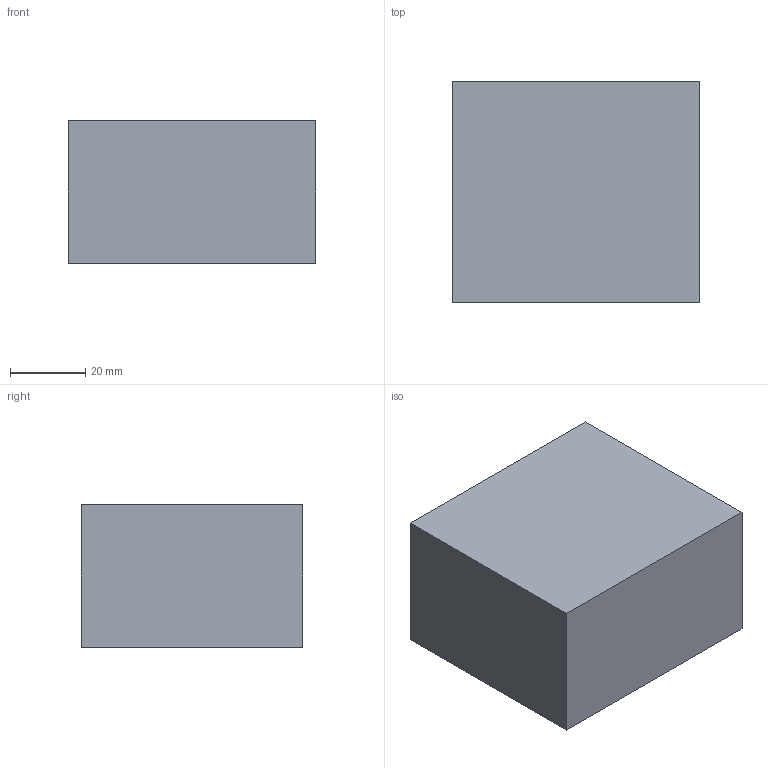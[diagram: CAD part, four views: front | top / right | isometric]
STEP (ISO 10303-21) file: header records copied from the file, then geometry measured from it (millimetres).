
FILE_DESCRIPTION (( 'STEP AP203' ), '1' );
FILE_NAME ('FTNES12.STEP', '2026-06-26T01:18:28', ( 'USER' ), ( '' ), 'SwSTEP 2.0', 'SolidWorks 2023', '' );
FILE_SCHEMA (( 'CONFIG_CONTROL_DESIGN' ));
Length unit declared in the file: millimetre
Products named in the file (1): FTNES12
Bounding box: 66 x 59 x 38 mm (x, y, z)
Volume: 117639.4 mm3; surface area: 22250.7 mm2
Topology: 1 solids, 1 shells, 35 faces, 72 edges, 41 vertices
Faces by surface type: cylinder 13, cone 12, plane 10
Entity records: 990 total; most frequent: CARTESIAN_POINT 173, DIRECTION 167, ORIENTED_EDGE 144, EDGE_CURVE 72, AXIS2_PLACEMENT_3D 67, VERTEX_POINT 41, EDGE_LOOP 39, ADVANCED_FACE 35
